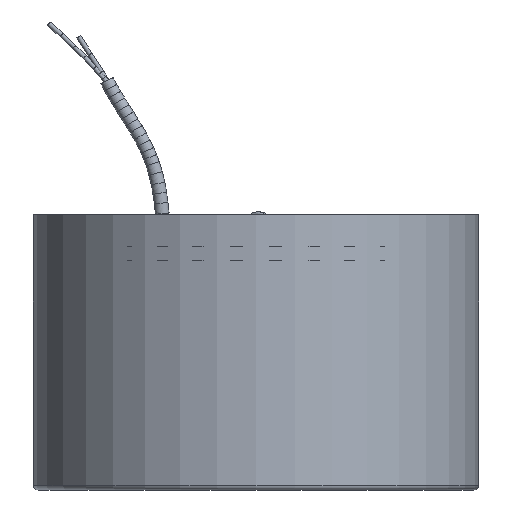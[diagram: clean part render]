
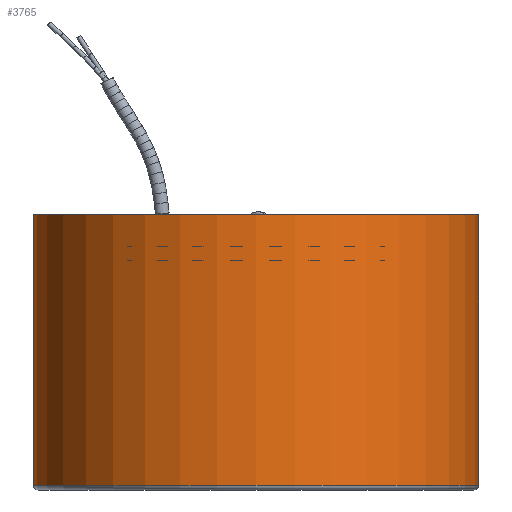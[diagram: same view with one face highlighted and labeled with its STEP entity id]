
A CAD part, front view. The second image highlights one B-rep face of the part: STEP entity #3765.
In plain terms, the highlighted cylindrical face has radius 97.05 mm (diameter 194.1 mm), a full revolution.
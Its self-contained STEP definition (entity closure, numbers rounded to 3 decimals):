
#3337=CYLINDRICAL_SURFACE('',#19047,97.05);
#3765=ADVANCED_FACE('',(#5321,#5322),#3337,.T.);
#5321=FACE_BOUND('',#6950,.T.);
#5322=FACE_BOUND('',#6951,.T.);
#6950=EDGE_LOOP('',(#9129));
#6951=EDGE_LOOP('',(#9130));
#9129=ORIENTED_EDGE('',*,*,#15509,.T.);
#9130=ORIENTED_EDGE('',*,*,#15510,.F.);
#13733=VERTEX_POINT('',#27130);
#13734=VERTEX_POINT('',#27132);
#15509=EDGE_CURVE('',#13733,#13733,#17811,.T.);
#15510=EDGE_CURVE('',#13734,#13734,#17812,.T.);
#17811=CIRCLE('',#19045,97.05);
#17812=CIRCLE('',#19046,97.05);
#19045=AXIS2_PLACEMENT_3D('',#27129,#21446,#21447);
#19046=AXIS2_PLACEMENT_3D('',#27131,#21448,#21449);
#19047=AXIS2_PLACEMENT_3D('',#27133,#21450,#21451);
#21446=DIRECTION('',(0.,0.,1.));
#21447=DIRECTION('',(1.,0.,0.));
#21448=DIRECTION('',(0.,0.,1.));
#21449=DIRECTION('',(1.,0.,0.));
#21450=DIRECTION('',(0.,0.,1.));
#21451=DIRECTION('',(-1.,0.,0.));
#27129=CARTESIAN_POINT('',(220.063,352.185,-118.));
#27130=CARTESIAN_POINT('',(317.113,352.185,-118.));
#27131=CARTESIAN_POINT('',(220.063,352.185,0.));
#27132=CARTESIAN_POINT('',(317.113,352.185,0.));
#27133=CARTESIAN_POINT('',(220.063,352.185,-120.));
